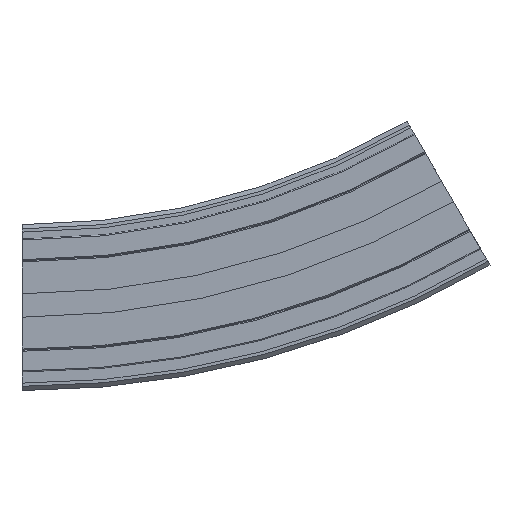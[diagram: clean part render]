
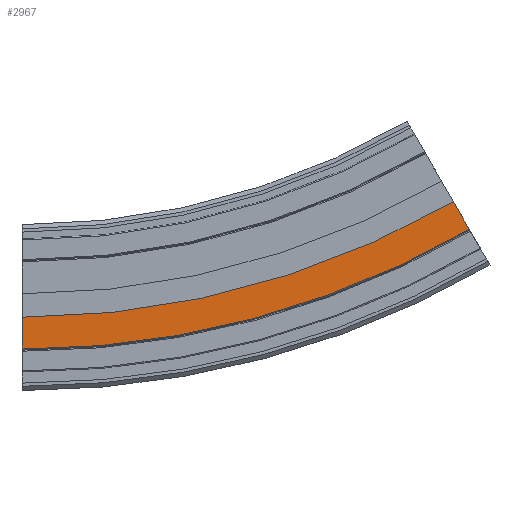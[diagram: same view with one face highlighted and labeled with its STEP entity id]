
A CAD part, front view. The second image highlights one B-rep face of the part: STEP entity #2967.
In plain terms, the highlighted planar face has unit normal (0, -1, 0).
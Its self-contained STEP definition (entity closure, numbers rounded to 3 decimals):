
#2909=CARTESIAN_POINT('',(210.25,-32.,-2.164));
#2910=VERTEX_POINT('',#2909);
#2917=CARTESIAN_POINT('',(0.0,-32.,-58.5));
#2918=VERTEX_POINT('',#2917);
#2919=CARTESIAN_POINT('',(0.,-32.,362.0));
#2920=DIRECTION('',(0.0,-1.,0.0));
#2921=DIRECTION('',(-0.5,0.0,0.866));
#2922=AXIS2_PLACEMENT_3D('',#2919,#2920,#2921);
#2923=CIRCLE('',#2922,420.5);
#2924=EDGE_CURVE('',#2918,#2910,#2923,.T.);
#2936=CARTESIAN_POINT('',(0.0,-32.,-51.));
#2937=DIRECTION('',(0.0,-1.0,0.0));
#2938=DIRECTION('',(0.0,0.0,-1.0));
#2939=AXIS2_PLACEMENT_3D('',#2936,#2937,#2938);
#2940=PLANE('',#2939);
#2941=CARTESIAN_POINT('',(202.75,-32.,10.827));
#2942=VERTEX_POINT('',#2941);
#2943=CARTESIAN_POINT('',(210.25,-32.,-2.164));
#2944=DIRECTION('',(-0.5,0.,0.866));
#2945=VECTOR('',#2944,15.);
#2946=LINE('',#2943,#2945);
#2947=EDGE_CURVE('',#2910,#2942,#2946,.T.);
#2948=ORIENTED_EDGE('',*,*,#2947,.T.);
#2949=CARTESIAN_POINT('',(0.0,-32.,-43.5));
#2950=VERTEX_POINT('',#2949);
#2951=CARTESIAN_POINT('',(0.,-32.,362.0));
#2952=DIRECTION('',(0.0,-1.0,0.0));
#2953=DIRECTION('',(-0.5,0.0,0.866));
#2954=AXIS2_PLACEMENT_3D('',#2951,#2952,#2953);
#2955=CIRCLE('',#2954,405.5);
#2956=EDGE_CURVE('',#2950,#2942,#2955,.T.);
#2957=ORIENTED_EDGE('',*,*,#2956,.F.);
#2958=CARTESIAN_POINT('',(0.0,-32.,-43.5));
#2959=DIRECTION('',(0.0,0.0,-1.0));
#2960=VECTOR('',#2959,15.);
#2961=LINE('',#2958,#2960);
#2962=EDGE_CURVE('',#2950,#2918,#2961,.T.);
#2963=ORIENTED_EDGE('',*,*,#2962,.T.);
#2964=ORIENTED_EDGE('',*,*,#2924,.T.);
#2965=EDGE_LOOP('',(#2948,#2957,#2963,#2964));
#2966=FACE_OUTER_BOUND('',#2965,.T.);
#2967=ADVANCED_FACE('',(#2966),#2940,.T.);
